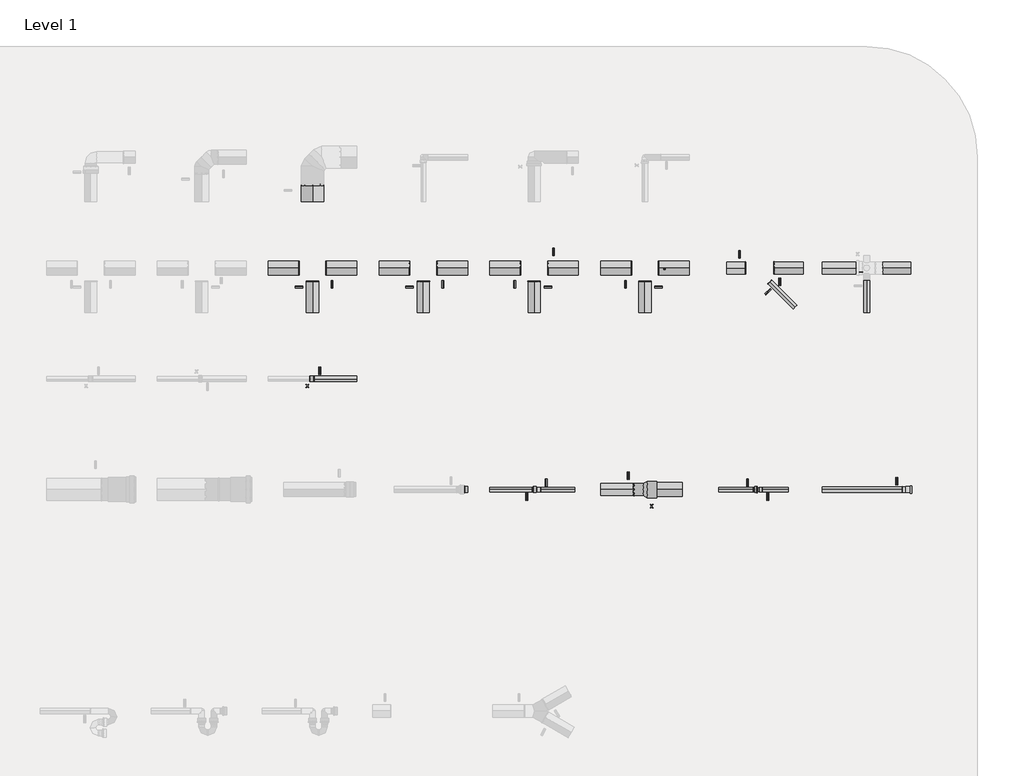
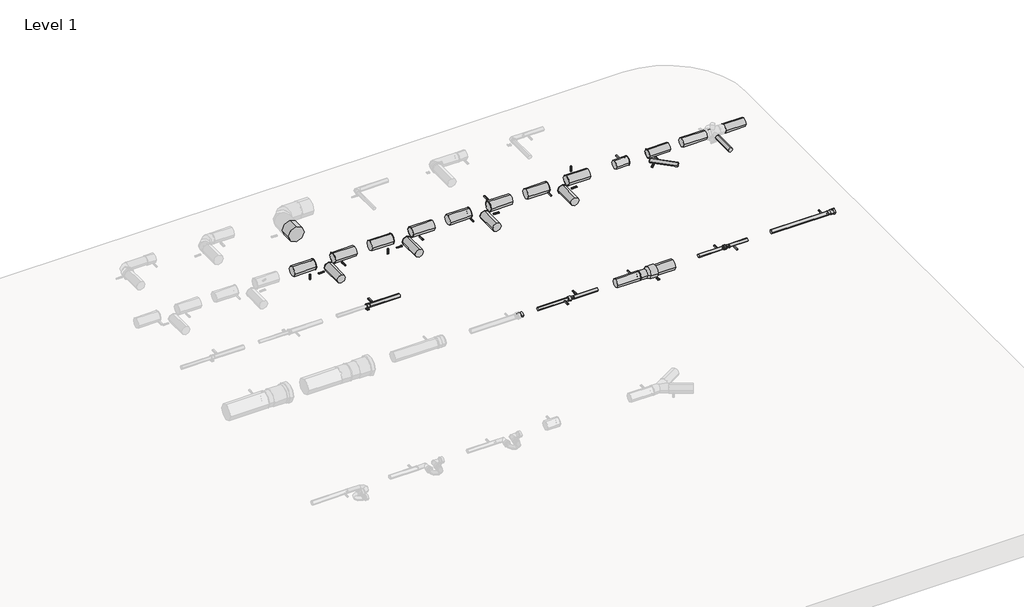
# One storey, part 5 of 6: 33 pipe fittings, 27 pipe segments.
"""IFC4 building model written with IfcOpenShell, lengths in millimetres."""

from ifc_helpers import new_model, si_unit, point, frame, frame_2d, origin, place, context, project, spatial, circle_curve, trimmed, segment, composite_curve, outline, extrude, transform, mapped, element, save
from components import pipe_fitting_c029aed5, pipe_fitting_32baf9d8, var_7bcffa66, var_02c1ed2a, nested_do_not_use_41f74998, nested_do_not_use_80e3b38c, nested_do_not_use_02fd2384, nested_do_not_use_0e8bf35e, nested_do_not_use_4f358614, nested_do_not_use_2b7e7ef3, welded_7e5780db, welded_75b1cb19, welded_63566782, welded_ac007b25

model = new_model("IFC4")

# Units and contexts
model_context = context("Model", 3, world=origin())
ifc_project = project(units=[si_unit("LENGTHUNIT", "METRE", prefix="MILLI")], contexts=[model_context])

# Site, building, storey
site = spatial("IfcSite", under=ifc_project)
building = spatial("IfcBuilding", under=site)
storey = spatial("IfcBuildingStorey", under=building, Name="Level 1", Elevation=0.0)

# Pipe fittings
placement = place(None, origin())
pipe_fitting_shape = pipe_fitting_c029aed5(model_context)
element("IfcPipeFitting", 1, ObjectType="NLRS_52_PIF_UN_HDPE weld_Akatherm : ringseal or non-welded", at=placement, inside=storey, context=model_context, shape_type="MappedRepresentation", body=[
    mapped(pipe_fitting_shape, transform((10658.7281064, 18273.6274824, 200.0), x_axis=(-1.0, 0.0, 0.0), y_axis=(0.0, 1.0, 0.0), z_axis=(0.0, 0.0, -1.0))),
])
pipe_fitting_2_shape = pipe_fitting_32baf9d8(model_context)
element("IfcPipeFitting", 2, ObjectType="NLRS_52_PIF_UN_HDPE weld_Akatherm : ringseal or non-welded", at=placement, inside=storey, context=model_context, shape_type="MappedRepresentation", body=[
    mapped(pipe_fitting_2_shape, transform((13674.9781064, 17273.6274824, 200.0), x_axis=(1.0, 0.0, 0.0), y_axis=(0.0, 1.0, 0.0), z_axis=(0.0, 0.0, 1.0))),
])
var_shape = var_7bcffa66(model_context)
element("IfcPipeFitting", 3, ObjectType="NLRS_52_PIF_UN_HDPE retraction socket_Akatherm : Var.", at=placement, inside=storey, context=model_context, shape_type="MappedRepresentation", body=[
    mapped(var_shape, transform((13659.9781064, 17273.6274824, 200.0), x_axis=(1.0, 0.0, 0.0), y_axis=(0.0, 1.0, 0.0), z_axis=(0.0, 0.0, 1.0))),
])
var_2_shape = var_02c1ed2a(model_context)
element("IfcPipeFitting", 4, ObjectType="NLRS_52_PIF_UN_HDPE plugin socket_Akatherm : Var.", at=placement, inside=storey, context=model_context, shape_type="MappedRepresentation", body=[
    mapped(var_2_shape, transform((15997.9781064, 17273.6274824, 200.0), x_axis=(1.0, 0.0, 0.0), y_axis=(0.0, 1.0, 0.0), z_axis=(0.0, 0.0, 1.0))),
])
nested_do_not_use_shape = nested_do_not_use_41f74998(model_context)
element("IfcPipeFitting", 5, ObjectType="NLRS_52_PIF_UN_HDPE female thread adapter -SH_Akatherm : nested, do not use", at=placement, inside=storey, context=model_context, shape_type="MappedRepresentation", body=[
    mapped(nested_do_not_use_shape, transform((12660.9781064, 17273.6274824, 200.0), x_axis=(1.0, 0.0, 0.0), y_axis=(0.0, 1.0, 0.0), z_axis=(0.0, 0.0, 1.0))),
])
nested_do_not_use_2_shape = nested_do_not_use_80e3b38c(model_context)
element("IfcPipeFitting", 6, ObjectType="NLRS_52_PIF_UN_HDPE flange bushing for screw coupler -SH_Akatherm : nested, do not use", at=placement, inside=storey, context=model_context, shape_type="MappedRepresentation", body=[
    mapped(nested_do_not_use_2_shape, transform((12030.1544434, 17273.6274824, 200.0), x_axis=(1.0, 0.0, 0.0), y_axis=(0.0, 1.0, 0.0), z_axis=(0.0, 0.0, 1.0))),
])
nested_do_not_use_3_shape = nested_do_not_use_02fd2384(model_context)
element("IfcPipeFitting", 7, ObjectType="NLRS_52_PIF_UN_HDPE male thread adapter -SH_Akatherm : nested, do not use", at=placement, inside=storey, context=model_context, shape_type="MappedRepresentation", body=[
    mapped(nested_do_not_use_3_shape, transform((12689.9781064, 17273.6274824, 200.0), x_axis=(-1.0, 0.0, 0.0), y_axis=(0.0, -1.0, 0.0), z_axis=(0.0, 0.0, 1.0))),
])
element("IfcPipeFitting", 8, ObjectType="NLRS_52_PIF_UN_HDPE male thread adapter -SH_Akatherm : nested, do not use", at=placement, inside=storey, context=model_context, shape_type="MappedRepresentation", body=[
    mapped(nested_do_not_use_3_shape, transform((14688.7874716, 17273.6274824, 200.0), x_axis=(-1.0, 0.0, 0.0), y_axis=(0.0, -1.0, 0.0), z_axis=(0.0, 0.0, 1.0))),
])
nested_do_not_use_4_shape = nested_do_not_use_0e8bf35e(model_context)
element("IfcPipeFitting", 9, ObjectType="NLRS_52_PIF_UN_HDPE rubber sleeve -SH_Akatherm : nested, do not use", at=placement, inside=storey, context=model_context, shape_type="MappedRepresentation", body=[
    mapped(nested_do_not_use_4_shape, transform((10646.7281064, 18273.6274824, 200.0), x_axis=(-1.0, 0.0, 0.0), y_axis=(0.0, -1.0, 0.0), z_axis=(0.0, 0.0, 1.0))),
])
nested_do_not_use_5_shape = nested_do_not_use_4f358614(model_context)
element("IfcPipeFitting", 10, ObjectType="NLRS_52_PIF_UN_HDPE screw flange -SH_Akatherm : nested, do not use", at=placement, inside=storey, context=model_context, shape_type="MappedRepresentation", body=[
    mapped(nested_do_not_use_5_shape, transform((14652.7874716, 17273.6274824, 200.0), x_axis=(1.0, 0.0, 0.0), y_axis=(0.0, 1.0, 0.0), z_axis=(0.0, 0.0, 1.0))),
])
nested_do_not_use_6_shape = nested_do_not_use_2b7e7ef3(model_context)
element("IfcPipeFitting", 11, ObjectType="NLRS_52_PIF_UN_HDPE trap connecting socket -SH_Akatherm : nested, do not use", at=placement, inside=storey, context=model_context, shape_type="MappedRepresentation", body=[
    mapped(nested_do_not_use_6_shape, transform((10657.7281064, 18273.6274824, 200.0), x_axis=(1.0, 0.0, 0.0), y_axis=(0.0, 1.0, 0.0), z_axis=(0.0, 0.0, 1.0))),
])
welded_shape = welded_7e5780db(model_context)
element("IfcPipeFitting", 12, ObjectType="NLRS_52_PIF_UN_HDPE weld_Akatherm : welded", at=placement, inside=storey, context=model_context, shape_type="MappedRepresentation", body=[
    mapped(welded_shape, transform((10785.7781064, 19273.6274824, 200.0), x_axis=(1.0, 0.0, 0.0), y_axis=(0.0, 1.0, 0.0), z_axis=(0.0, 0.0, 1.0))),
])
element("IfcPipeFitting", 13, ObjectType="NLRS_52_PIF_UN_HDPE weld_Akatherm : welded", at=placement, inside=storey, context=model_context, shape_type="MappedRepresentation", body=[
    mapped(welded_shape, transform((10534.1781064, 19273.6274824, 200.0), x_axis=(-1.0, 0.0, 0.0), y_axis=(0.0, 0.0, 1.0), z_axis=(0.0, 1.0, 0.0))),
])
element("IfcPipeFitting", 14, ObjectType="NLRS_52_PIF_UN_HDPE weld_Akatherm : welded", at=placement, inside=storey, context=model_context, shape_type="MappedRepresentation", body=[
    mapped(welded_shape, transform((11785.7781064, 19273.6274824, 200.0), x_axis=(1.0, 0.0, 0.0), y_axis=(0.0, 1.0, 0.0), z_axis=(0.0, 0.0, 1.0))),
])
element("IfcPipeFitting", 15, ObjectType="NLRS_52_PIF_UN_HDPE weld_Akatherm : welded", at=placement, inside=storey, context=model_context, shape_type="MappedRepresentation", body=[
    mapped(welded_shape, transform((11534.1781064, 19273.6274824, 200.0), x_axis=(-1.0, 0.0, 0.0), y_axis=(0.0, 0.0, 1.0), z_axis=(0.0, 1.0, 0.0))),
])
element("IfcPipeFitting", 16, ObjectType="NLRS_52_PIF_UN_HDPE weld_Akatherm : welded", at=placement, inside=storey, context=model_context, shape_type="MappedRepresentation", body=[
    mapped(welded_shape, transform((12534.1781064, 19273.6274824, 200.0), x_axis=(-1.0, 0.0, 0.0), y_axis=(0.0, 1.0, 0.0), z_axis=(0.0, 0.0, -1.0))),
])
element("IfcPipeFitting", 17, ObjectType="NLRS_52_PIF_UN_HDPE weld_Akatherm : welded", at=placement, inside=storey, context=model_context, shape_type="MappedRepresentation", body=[
    mapped(welded_shape, transform((12785.7781064, 19273.6274824, 200.0), x_axis=(1.0, 0.0, 0.0), y_axis=(0.0, -1.0, 0.0), z_axis=(0.0, 0.0, -1.0))),
])
element("IfcPipeFitting", 18, ObjectType="NLRS_52_PIF_UN_HDPE weld_Akatherm : welded", at=placement, inside=storey, context=model_context, shape_type="MappedRepresentation", body=[
    mapped(welded_shape, transform((13534.1781064, 19273.6274824, 200.0), x_axis=(-1.0, 0.0, 0.0), y_axis=(0.0, 1.0, 0.0), z_axis=(0.0, 0.0, -1.0))),
])
element("IfcPipeFitting", 19, ObjectType="NLRS_52_PIF_UN_HDPE weld_Akatherm : welded", at=placement, inside=storey, context=model_context, shape_type="MappedRepresentation", body=[
    mapped(welded_shape, transform((13785.7781064, 19273.6274824, 200.0), x_axis=(1.0, 0.0, 0.0), y_axis=(0.0, 0.0, -1.0), z_axis=(0.0, 1.0, 0.0))),
])
welded_2_shape = welded_75b1cb19(model_context)
element("IfcPipeFitting", 20, ObjectType="NLRS_52_PIF_UN_HDPE weld_Akatherm : welded", at=placement, inside=storey, context=model_context, shape_type="MappedRepresentation", body=[
    mapped(welded_2_shape, transform((14786.0552455, 19147.5503433, 200.0), x_axis=(0.7071067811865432, -0.7071067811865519, 0.0), y_axis=(0.7071067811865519, 0.7071067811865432, 0.0), z_axis=(0.0, 0.0, 1.0))),
])
element("IfcPipeFitting", 21, ObjectType="NLRS_52_PIF_UN_HDPE weld_Akatherm : welded", at=placement, inside=storey, context=model_context, shape_type="MappedRepresentation", body=[
    mapped(welded_2_shape, transform((10675.0281064, 18273.6274824, 200.0), x_axis=(1.0, 0.0, 0.0), y_axis=(0.0, -1.0, 0.0), z_axis=(0.0, 0.0, -1.0))),
])
element("IfcPipeFitting", 22, ObjectType="NLRS_52_PIF_UN_HDPE weld_Akatherm : welded", at=placement, inside=storey, context=model_context, shape_type="MappedRepresentation", body=[
    mapped(welded_2_shape, transform((15981.6781064, 17273.6274824, 200.0), x_axis=(-1.0, 0.0, 0.0), y_axis=(0.0, -1.0, 0.0), z_axis=(0.0, 0.0, 1.0))),
])
welded_3_shape = welded_63566782(model_context)
element("IfcPipeFitting", 23, ObjectType="NLRS_52_PIF_UN_HDPE weld_Akatherm : welded", at=placement, inside=storey, context=model_context, shape_type="MappedRepresentation", body=[
    mapped(welded_3_shape, transform((12643.6781064, 17273.6274824, 200.0), x_axis=(-1.0, 0.0, 0.0), y_axis=(0.0, 1.0, 0.0), z_axis=(0.0, 0.0, -1.0))),
])
element("IfcPipeFitting", 24, ObjectType="NLRS_52_PIF_UN_HDPE weld_Akatherm : welded", at=placement, inside=storey, context=model_context, shape_type="MappedRepresentation", body=[
    mapped(welded_3_shape, transform((12718.2781064, 17273.6274824, 200.0), x_axis=(1.0, 0.0, 0.0), y_axis=(0.0, -1.0, 0.0), z_axis=(0.0, 0.0, -1.0))),
])
element("IfcPipeFitting", 25, ObjectType="NLRS_52_PIF_UN_HDPE weld_Akatherm : welded", at=placement, inside=storey, context=model_context, shape_type="MappedRepresentation", body=[
    mapped(welded_3_shape, transform((14636.4874716, 17273.6274824, 200.0), x_axis=(-1.0, 0.0, 0.0), y_axis=(0.0, -1.0, 0.0), z_axis=(0.0, 0.0, 1.0))),
])
element("IfcPipeFitting", 26, ObjectType="NLRS_52_PIF_UN_HDPE weld_Akatherm : welded", at=placement, inside=storey, context=model_context, shape_type="MappedRepresentation", body=[
    mapped(welded_3_shape, transform((14717.0874716, 17273.6274824, 200.0), x_axis=(1.0, 0.0, 0.0), y_axis=(0.0, 1.0, 0.0), z_axis=(0.0, 0.0, 1.0))),
])
welded_4_shape = welded_ac007b25(model_context)
element("IfcPipeFitting", 27, ObjectType="NLRS_52_PIF_UN_HDPE weld_Akatherm : welded", at=placement, inside=storey, context=model_context, shape_type="MappedRepresentation", body=[
    mapped(welded_4_shape, transform((10659.9781064, 19152.3274824, 200.0), x_axis=(0.0, -1.0, 0.0), y_axis=(1.0, 0.0, 0.0), z_axis=(0.0, 0.0, 1.0))),
])
element("IfcPipeFitting", 28, ObjectType="NLRS_52_PIF_UN_HDPE weld_Akatherm : welded", at=placement, inside=storey, context=model_context, shape_type="MappedRepresentation", body=[
    mapped(welded_4_shape, transform((11659.9781064, 19152.3274824, 200.0), x_axis=(0.0, -1.0, 0.0), y_axis=(1.0, 0.0, 0.0), z_axis=(0.0, 0.0, 1.0))),
])
element("IfcPipeFitting", 29, ObjectType="NLRS_52_PIF_UN_HDPE weld_Akatherm : welded", at=placement, inside=storey, context=model_context, shape_type="MappedRepresentation", body=[
    mapped(welded_4_shape, transform((12659.9781064, 19152.3274824, 200.0), x_axis=(0.0, -1.0, 0.0), y_axis=(-1.0, 0.0, 0.0), z_axis=(0.0, 0.0, -1.0))),
])
element("IfcPipeFitting", 30, ObjectType="NLRS_52_PIF_UN_HDPE weld_Akatherm : welded", at=placement, inside=storey, context=model_context, shape_type="MappedRepresentation", body=[
    mapped(welded_4_shape, transform((13659.9781064, 19152.3274824, 200.0), x_axis=(0.0, -1.0, 0.0), y_axis=(-1.0, 0.0, 0.0), z_axis=(0.0, 0.0, -1.0))),
])
element("IfcPipeFitting", 31, ObjectType="NLRS_52_PIF_UN_HDPE weld_Akatherm : welded", at=placement, inside=storey, context=model_context, shape_type="MappedRepresentation", body=[
    mapped(welded_4_shape, transform((14563.6781064, 19273.6274824, 200.0), x_axis=(-1.0, 0.0, 0.0), y_axis=(0.0, -1.0, 0.0), z_axis=(0.0, 0.0, 1.0))),
])
element("IfcPipeFitting", 32, ObjectType="NLRS_52_PIF_UN_HDPE weld_Akatherm : welded", at=placement, inside=storey, context=model_context, shape_type="MappedRepresentation", body=[
    mapped(welded_4_shape, transform((14826.2781064, 19273.6274824, 200.0), x_axis=(1.0, 0.0, 0.0), y_axis=(0.0, 1.0, 0.0), z_axis=(0.0, 0.0, 1.0))),
])
element("IfcPipeFitting", 33, ObjectType="NLRS_52_PIF_UN_HDPE weld_Akatherm : welded", at=placement, inside=storey, context=model_context, shape_type="MappedRepresentation", body=[
    mapped(welded_4_shape, transform((13558.6781064, 17273.6274824, 200.0), x_axis=(-1.0, 0.0, 0.0), y_axis=(0.0, -1.0, 0.0), z_axis=(0.0, 0.0, 1.0))),
])

# Pipe segments
element("IfcPipeSegment", 34, ObjectType="NLRS_52_PI_HDPE buis (DN)_Akatherm", at=placement, inside=storey, context=model_context, shape_type="SweptSolid", body=[
    extrude(outline(composite_curve([segment(trimmed(circle_curve(frame_2d((200.0, 10659.9781064)), 55.0), [point((200.0, 10604.9781064))], [point((145.0, 10659.9781064))], False, "CARTESIAN"), True, "CONTINUOUS"), segment(trimmed(circle_curve(frame_2d((200.0, 10659.9781064)), 55.0), [point((145.0, 10659.9781064))], [point((200.0, 10714.9781064))], False, "CARTESIAN"), True, "CONTINUOUS"), segment(trimmed(circle_curve(frame_2d((200.0, 10659.9781064)), 55.0), [point((200.0, 10714.9781064))], [point((255.0, 10659.9781064))], False, "CARTESIAN"), True, "CONTINUOUS"), segment(trimmed(circle_curve(frame_2d((200.0, 10659.9781064)), 55.0), [point((255.0, 10659.9781064))], [point((200.0, 10604.9781064))], False, "CARTESIAN"), True, "CONTINUOUS")], self_intersect=False)), frame((0.0, 18873.6274824, 0.0), z_axis=(0.0, 1.0, 0.0), x_axis=(0.0, 0.0, 1.0)), (0.0, 0.0, 1.0), 282.4),
])
element("IfcPipeSegment", 35, ObjectType="NLRS_52_PI_HDPE buis (DN)_Akatherm", at=placement, inside=storey, context=model_context, shape_type="SweptSolid", body=[
    extrude(outline(composite_curve([segment(trimmed(circle_curve(frame_2d((19273.6274824, 200.0)), 62.5), [point((19211.1274824, 200.0))], [point((19273.6274824, 262.5))], False, "CARTESIAN"), True, "CONTINUOUS"), segment(trimmed(circle_curve(frame_2d((19273.6274824, 200.0)), 62.5), [point((19273.6274824, 262.5))], [point((19336.1274824, 200.0))], False, "CARTESIAN"), True, "CONTINUOUS"), segment(trimmed(circle_curve(frame_2d((19273.6274824, 200.0)), 62.5), [point((19336.1274824, 200.0))], [point((19273.6274824, 137.5))], False, "CARTESIAN"), True, "CONTINUOUS"), segment(trimmed(circle_curve(frame_2d((19273.6274824, 200.0)), 62.5), [point((19273.6274824, 137.5))], [point((19211.1274824, 200.0))], False, "CARTESIAN"), True, "CONTINUOUS")], self_intersect=False)), frame((10781.5781064, 0.0, 0.0), z_axis=(1.0, 0.0, 0.0), x_axis=(0.0, 1.0, 0.0)), (0.0, 0.0, 1.0), 278.4),
])
element("IfcPipeSegment", 36, ObjectType="NLRS_52_PI_HDPE buis (DN)_Akatherm", at=placement, inside=storey, context=model_context, shape_type="SweptSolid", body=[
    extrude(outline(composite_curve([segment(trimmed(circle_curve(frame_2d((19273.6274824, 200.0)), 62.5), [point((19211.1274824, 200.0))], [point((19273.6274824, 262.5))], False, "CARTESIAN"), True, "CONTINUOUS"), segment(trimmed(circle_curve(frame_2d((19273.6274824, 200.0)), 62.5), [point((19273.6274824, 262.5))], [point((19336.1274824, 200.0))], False, "CARTESIAN"), True, "CONTINUOUS"), segment(trimmed(circle_curve(frame_2d((19273.6274824, 200.0)), 62.5), [point((19336.1274824, 200.0))], [point((19273.6274824, 137.5))], False, "CARTESIAN"), True, "CONTINUOUS"), segment(trimmed(circle_curve(frame_2d((19273.6274824, 200.0)), 62.5), [point((19273.6274824, 137.5))], [point((19211.1274824, 200.0))], False, "CARTESIAN"), True, "CONTINUOUS")], self_intersect=False)), frame((10259.9781064, 0.0, 0.0), z_axis=(1.0, 0.0, 0.0), x_axis=(0.0, 1.0, 0.0)), (0.0, 0.0, 1.0), 278.4),
])
element("IfcPipeSegment", 37, ObjectType="NLRS_52_PI_HDPE buis (DN)_Akatherm", at=placement, inside=storey, context=model_context, shape_type="SweptSolid", body=[
    extrude(outline(composite_curve([segment(trimmed(circle_curve(frame_2d((200.0, 11659.9781064)), 55.0), [point((200.0, 11604.9781064))], [point((145.0, 11659.9781064))], False, "CARTESIAN"), True, "CONTINUOUS"), segment(trimmed(circle_curve(frame_2d((200.0, 11659.9781064)), 55.0), [point((145.0, 11659.9781064))], [point((200.0, 11714.9781064))], False, "CARTESIAN"), True, "CONTINUOUS"), segment(trimmed(circle_curve(frame_2d((200.0, 11659.9781064)), 55.0), [point((200.0, 11714.9781064))], [point((255.0, 11659.9781064))], False, "CARTESIAN"), True, "CONTINUOUS"), segment(trimmed(circle_curve(frame_2d((200.0, 11659.9781064)), 55.0), [point((255.0, 11659.9781064))], [point((200.0, 11604.9781064))], False, "CARTESIAN"), True, "CONTINUOUS")], self_intersect=False)), frame((0.0, 18873.6274824, 0.0), z_axis=(0.0, 1.0, 0.0), x_axis=(0.0, 0.0, 1.0)), (0.0, 0.0, 1.0), 282.4),
])
element("IfcPipeSegment", 38, ObjectType="NLRS_52_PI_HDPE buis (DN)_Akatherm", at=placement, inside=storey, context=model_context, shape_type="SweptSolid", body=[
    extrude(outline(composite_curve([segment(trimmed(circle_curve(frame_2d((19273.6274824, 200.0)), 62.5), [point((19211.1274824, 200.0))], [point((19273.6274824, 262.5))], False, "CARTESIAN"), True, "CONTINUOUS"), segment(trimmed(circle_curve(frame_2d((19273.6274824, 200.0)), 62.5), [point((19273.6274824, 262.5))], [point((19336.1274824, 200.0))], False, "CARTESIAN"), True, "CONTINUOUS"), segment(trimmed(circle_curve(frame_2d((19273.6274824, 200.0)), 62.5), [point((19336.1274824, 200.0))], [point((19273.6274824, 137.5))], False, "CARTESIAN"), True, "CONTINUOUS"), segment(trimmed(circle_curve(frame_2d((19273.6274824, 200.0)), 62.5), [point((19273.6274824, 137.5))], [point((19211.1274824, 200.0))], False, "CARTESIAN"), True, "CONTINUOUS")], self_intersect=False)), frame((11781.5781064, 0.0, 0.0), z_axis=(1.0, 0.0, 0.0), x_axis=(0.0, 1.0, 0.0)), (0.0, 0.0, 1.0), 278.4),
])
element("IfcPipeSegment", 39, ObjectType="NLRS_52_PI_HDPE buis (DN)_Akatherm", at=placement, inside=storey, context=model_context, shape_type="SweptSolid", body=[
    extrude(outline(composite_curve([segment(trimmed(circle_curve(frame_2d((19273.6274824, 200.0)), 62.5), [point((19211.1274824, 200.0))], [point((19273.6274824, 262.5))], False, "CARTESIAN"), True, "CONTINUOUS"), segment(trimmed(circle_curve(frame_2d((19273.6274824, 200.0)), 62.5), [point((19273.6274824, 262.5))], [point((19336.1274824, 200.0))], False, "CARTESIAN"), True, "CONTINUOUS"), segment(trimmed(circle_curve(frame_2d((19273.6274824, 200.0)), 62.5), [point((19336.1274824, 200.0))], [point((19273.6274824, 137.5))], False, "CARTESIAN"), True, "CONTINUOUS"), segment(trimmed(circle_curve(frame_2d((19273.6274824, 200.0)), 62.5), [point((19273.6274824, 137.5))], [point((19211.1274824, 200.0))], False, "CARTESIAN"), True, "CONTINUOUS")], self_intersect=False)), frame((11259.9781064, 0.0, 0.0), z_axis=(1.0, 0.0, 0.0), x_axis=(0.0, 1.0, 0.0)), (0.0, 0.0, 1.0), 278.4),
])
element("IfcPipeSegment", 40, ObjectType="NLRS_52_PI_HDPE buis (DN)_Akatherm", at=placement, inside=storey, context=model_context, shape_type="SweptSolid", body=[
    extrude(outline(composite_curve([segment(trimmed(circle_curve(frame_2d((200.0, 12659.9781064)), 55.0), [point((200.0, 12604.9781064))], [point((145.0, 12659.9781064))], False, "CARTESIAN"), True, "CONTINUOUS"), segment(trimmed(circle_curve(frame_2d((200.0, 12659.9781064)), 55.0), [point((145.0, 12659.9781064))], [point((200.0, 12714.9781064))], False, "CARTESIAN"), True, "CONTINUOUS"), segment(trimmed(circle_curve(frame_2d((200.0, 12659.9781064)), 55.0), [point((200.0, 12714.9781064))], [point((255.0, 12659.9781064))], False, "CARTESIAN"), True, "CONTINUOUS"), segment(trimmed(circle_curve(frame_2d((200.0, 12659.9781064)), 55.0), [point((255.0, 12659.9781064))], [point((200.0, 12604.9781064))], False, "CARTESIAN"), True, "CONTINUOUS")], self_intersect=False)), frame((0.0, 18873.6274824, 0.0), z_axis=(0.0, 1.0, 0.0), x_axis=(0.0, 0.0, 1.0)), (0.0, 0.0, 1.0), 282.4),
])
element("IfcPipeSegment", 41, ObjectType="NLRS_52_PI_HDPE buis (DN)_Akatherm", at=placement, inside=storey, context=model_context, shape_type="SweptSolid", body=[
    extrude(outline(composite_curve([segment(trimmed(circle_curve(frame_2d((19273.6274824, 200.0)), 62.5), [point((19211.1274824, 200.0))], [point((19273.6274824, 262.5))], False, "CARTESIAN"), True, "CONTINUOUS"), segment(trimmed(circle_curve(frame_2d((19273.6274824, 200.0)), 62.5), [point((19273.6274824, 262.5))], [point((19336.1274824, 200.0))], False, "CARTESIAN"), True, "CONTINUOUS"), segment(trimmed(circle_curve(frame_2d((19273.6274824, 200.0)), 62.5), [point((19336.1274824, 200.0))], [point((19273.6274824, 137.5))], False, "CARTESIAN"), True, "CONTINUOUS"), segment(trimmed(circle_curve(frame_2d((19273.6274824, 200.0)), 62.5), [point((19273.6274824, 137.5))], [point((19211.1274824, 200.0))], False, "CARTESIAN"), True, "CONTINUOUS")], self_intersect=False)), frame((12781.5781064, 0.0, 0.0), z_axis=(1.0, 0.0, 0.0), x_axis=(0.0, 1.0, 0.0)), (0.0, 0.0, 1.0), 278.4),
])
element("IfcPipeSegment", 42, ObjectType="NLRS_52_PI_HDPE buis (DN)_Akatherm", at=placement, inside=storey, context=model_context, shape_type="SweptSolid", body=[
    extrude(outline(composite_curve([segment(trimmed(circle_curve(frame_2d((19273.6274824, 200.0)), 62.5), [point((19211.1274824, 200.0))], [point((19273.6274824, 262.5))], False, "CARTESIAN"), True, "CONTINUOUS"), segment(trimmed(circle_curve(frame_2d((19273.6274824, 200.0)), 62.5), [point((19273.6274824, 262.5))], [point((19336.1274824, 200.0))], False, "CARTESIAN"), True, "CONTINUOUS"), segment(trimmed(circle_curve(frame_2d((19273.6274824, 200.0)), 62.5), [point((19336.1274824, 200.0))], [point((19273.6274824, 137.5))], False, "CARTESIAN"), True, "CONTINUOUS"), segment(trimmed(circle_curve(frame_2d((19273.6274824, 200.0)), 62.5), [point((19273.6274824, 137.5))], [point((19211.1274824, 200.0))], False, "CARTESIAN"), True, "CONTINUOUS")], self_intersect=False)), frame((12259.9781064, 0.0, 0.0), z_axis=(1.0, 0.0, 0.0), x_axis=(0.0, 1.0, 0.0)), (0.0, 0.0, 1.0), 278.4),
])
element("IfcPipeSegment", 43, ObjectType="NLRS_52_PI_HDPE buis (DN)_Akatherm", at=placement, inside=storey, context=model_context, shape_type="SweptSolid", body=[
    extrude(outline(composite_curve([segment(trimmed(circle_curve(frame_2d((200.0, 13659.9781064)), 55.0), [point((200.0, 13604.9781064))], [point((145.0, 13659.9781064))], False, "CARTESIAN"), True, "CONTINUOUS"), segment(trimmed(circle_curve(frame_2d((200.0, 13659.9781064)), 55.0), [point((145.0, 13659.9781064))], [point((200.0, 13714.9781064))], False, "CARTESIAN"), True, "CONTINUOUS"), segment(trimmed(circle_curve(frame_2d((200.0, 13659.9781064)), 55.0), [point((200.0, 13714.9781064))], [point((255.0, 13659.9781064))], False, "CARTESIAN"), True, "CONTINUOUS"), segment(trimmed(circle_curve(frame_2d((200.0, 13659.9781064)), 55.0), [point((255.0, 13659.9781064))], [point((200.0, 13604.9781064))], False, "CARTESIAN"), True, "CONTINUOUS")], self_intersect=False)), frame((0.0, 18873.6274824, 0.0), z_axis=(0.0, 1.0, 0.0), x_axis=(0.0, 0.0, 1.0)), (0.0, 0.0, 1.0), 282.4),
])
element("IfcPipeSegment", 44, ObjectType="NLRS_52_PI_HDPE buis (DN)_Akatherm", at=placement, inside=storey, context=model_context, shape_type="SweptSolid", body=[
    extrude(outline(composite_curve([segment(trimmed(circle_curve(frame_2d((19273.6274824, 200.0)), 62.5), [point((19211.1274824, 200.0))], [point((19273.6274824, 262.5))], False, "CARTESIAN"), True, "CONTINUOUS"), segment(trimmed(circle_curve(frame_2d((19273.6274824, 200.0)), 62.5), [point((19273.6274824, 262.5))], [point((19336.1274824, 200.0))], False, "CARTESIAN"), True, "CONTINUOUS"), segment(trimmed(circle_curve(frame_2d((19273.6274824, 200.0)), 62.5), [point((19336.1274824, 200.0))], [point((19273.6274824, 137.5))], False, "CARTESIAN"), True, "CONTINUOUS"), segment(trimmed(circle_curve(frame_2d((19273.6274824, 200.0)), 62.5), [point((19273.6274824, 137.5))], [point((19211.1274824, 200.0))], False, "CARTESIAN"), True, "CONTINUOUS")], self_intersect=False)), frame((13781.5781064, 0.0, 0.0), z_axis=(1.0, 0.0, 0.0), x_axis=(0.0, 1.0, 0.0)), (0.0, 0.0, 1.0), 278.4),
])
element("IfcPipeSegment", 45, ObjectType="NLRS_52_PI_HDPE buis (DN)_Akatherm", at=placement, inside=storey, context=model_context, shape_type="SweptSolid", body=[
    extrude(outline(composite_curve([segment(trimmed(circle_curve(frame_2d((19273.6274824, 200.0)), 62.5), [point((19211.1274824, 200.0))], [point((19273.6274824, 262.5))], False, "CARTESIAN"), True, "CONTINUOUS"), segment(trimmed(circle_curve(frame_2d((19273.6274824, 200.0)), 62.5), [point((19273.6274824, 262.5))], [point((19336.1274824, 200.0))], False, "CARTESIAN"), True, "CONTINUOUS"), segment(trimmed(circle_curve(frame_2d((19273.6274824, 200.0)), 62.5), [point((19336.1274824, 200.0))], [point((19273.6274824, 137.5))], False, "CARTESIAN"), True, "CONTINUOUS"), segment(trimmed(circle_curve(frame_2d((19273.6274824, 200.0)), 62.5), [point((19273.6274824, 137.5))], [point((19211.1274824, 200.0))], False, "CARTESIAN"), True, "CONTINUOUS")], self_intersect=False)), frame((13259.9781064, 0.0, 0.0), z_axis=(1.0, 0.0, 0.0), x_axis=(0.0, 1.0, 0.0)), (0.0, 0.0, 1.0), 278.4),
])
element("IfcPipeSegment", 46, ObjectType="NLRS_52_PI_HDPE buis (DN)_Akatherm", at=placement, inside=storey, context=model_context, shape_type="SweptSolid", body=[
    extrude(outline(composite_curve([segment(trimmed(circle_curve(frame_2d((19273.6274824, 200.0)), 55.0), [point((19218.6274824, 200.0))], [point((19273.6274824, 255.0))], False, "CARTESIAN"), True, "CONTINUOUS"), segment(trimmed(circle_curve(frame_2d((19273.6274824, 200.0)), 55.0), [point((19273.6274824, 255.0))], [point((19328.6274824, 200.0))], False, "CARTESIAN"), True, "CONTINUOUS"), segment(trimmed(circle_curve(frame_2d((19273.6274824, 200.0)), 55.0), [point((19328.6274824, 200.0))], [point((19273.6274824, 145.0))], False, "CARTESIAN"), True, "CONTINUOUS"), segment(trimmed(circle_curve(frame_2d((19273.6274824, 200.0)), 55.0), [point((19273.6274824, 145.0))], [point((19218.6274824, 200.0))], False, "CARTESIAN"), True, "CONTINUOUS")], self_intersect=False)), frame((14822.5781064, 0.0, 0.0), z_axis=(1.0, 0.0, 0.0), x_axis=(0.0, 1.0, 0.0)), (0.0, 0.0, 1.0), 267.4),
])
element("IfcPipeSegment", 47, ObjectType="NLRS_52_PI_HDPE buis (DN)_Akatherm", at=placement, inside=storey, context=model_context, shape_type="SweptSolid", body=[
    extrude(outline(composite_curve([segment(trimmed(circle_curve(frame_2d((19273.6274824, 200.0)), 55.0), [point((19328.6274824, 200.0))], [point((19273.6274824, 145.0))], False, "CARTESIAN"), True, "CONTINUOUS"), segment(trimmed(circle_curve(frame_2d((19273.6274824, 200.0)), 55.0), [point((19273.6274824, 145.0))], [point((19218.6274824, 200.0))], False, "CARTESIAN"), True, "CONTINUOUS"), segment(trimmed(circle_curve(frame_2d((19273.6274824, 200.0)), 55.0), [point((19218.6274824, 200.0))], [point((19273.6274824, 255.0))], False, "CARTESIAN"), True, "CONTINUOUS"), segment(trimmed(circle_curve(frame_2d((19273.6274824, 200.0)), 55.0), [point((19273.6274824, 255.0))], [point((19328.6274824, 200.0))], False, "CARTESIAN"), True, "CONTINUOUS")], self_intersect=False)), frame((14399.9781064, 0.0, 0.0), z_axis=(1.0, 0.0, 0.0), x_axis=(0.0, 1.0, 0.0)), (0.0, 0.0, 1.0), 167.4),
])
element("IfcPipeSegment", 48, ObjectType="NLRS_52_PI_HDPE buis (DN)_Akatherm", at=placement, inside=storey, context=model_context, shape_type="SweptSolid", body=[
    extrude(outline(composite_curve([segment(trimmed(circle_curve(frame_2d((0.0, -25.0)), 25.0), [point((-25.0, -25.0))], [point((0.0, 0.0))], False, "CARTESIAN"), True, "CONTINUOUS"), segment(trimmed(circle_curve(frame_2d((0.0, -25.0)), 25.0), [point((0.0, 0.0))], [point((25.0, -25.0))], False, "CARTESIAN"), True, "CONTINUOUS"), segment(trimmed(circle_curve(frame_2d((0.0, -25.0)), 25.0), [point((25.0, -25.0))], [point((0.0, -50.0))], False, "CARTESIAN"), True, "CONTINUOUS"), segment(trimmed(circle_curve(frame_2d((0.0, -25.0)), 25.0), [point((0.0, -50.0))], [point((-25.0, -25.0))], False, "CARTESIAN"), True, "CONTINUOUS")], self_intersect=False)), frame((15013.531497, 18920.0740918, 175.0), z_axis=(-0.707106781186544, 0.7071067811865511, 0.0), x_axis=(0.7071067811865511, 0.707106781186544, 0.0)), (0.0, 0.0, 1.0), 323.4),
])
element("IfcPipeSegment", 49, ObjectType="NLRS_52_PI_HDPE buis (DN)_Akatherm", at=placement, inside=storey, context=model_context, shape_type="SweptSolid", body=[
    extrude(outline(composite_curve([segment(trimmed(circle_curve(frame_2d((200.0, 10659.9781064)), 100.0), [point((200.0, 10559.9781064))], [point((100.0, 10659.9781064))], False, "CARTESIAN"), True, "CONTINUOUS"), segment(trimmed(circle_curve(frame_2d((200.0, 10659.9781064)), 100.0), [point((100.0, 10659.9781064))], [point((200.0, 10759.9781064))], False, "CARTESIAN"), True, "CONTINUOUS"), segment(trimmed(circle_curve(frame_2d((200.0, 10659.9781064)), 100.0), [point((200.0, 10759.9781064))], [point((300.0, 10659.9781064))], False, "CARTESIAN"), True, "CONTINUOUS"), segment(trimmed(circle_curve(frame_2d((200.0, 10659.9781064)), 100.0), [point((300.0, 10659.9781064))], [point((200.0, 10559.9781064))], False, "CARTESIAN"), True, "CONTINUOUS")], self_intersect=False)), frame((0.0, 19873.6274824, 0.0), z_axis=(0.0, 1.0, 0.0), x_axis=(0.0, 0.0, 1.0)), (0.0, 0.0, 1.0), 156.4),
])
element("IfcPipeSegment", 50, ObjectType="NLRS_52_PI_HDPE buis (DN)_Akatherm", at=placement, inside=storey, context=model_context, shape_type="SweptSolid", body=[
    extrude(outline(composite_curve([segment(trimmed(circle_curve(frame_2d((200.0, 15659.9781064)), 28.0), [point((200.0, 15631.9781064))], [point((172.0, 15659.9781064))], False, "CARTESIAN"), True, "CONTINUOUS"), segment(trimmed(circle_curve(frame_2d((200.0, 15659.9781064)), 28.0), [point((172.0, 15659.9781064))], [point((200.0, 15687.9781064))], False, "CARTESIAN"), True, "CONTINUOUS"), segment(trimmed(circle_curve(frame_2d((200.0, 15659.9781064)), 28.0), [point((200.0, 15687.9781064))], [point((228.0, 15659.9781064))], False, "CARTESIAN"), True, "CONTINUOUS"), segment(trimmed(circle_curve(frame_2d((200.0, 15659.9781064)), 28.0), [point((228.0, 15659.9781064))], [point((200.0, 15631.9781064))], False, "CARTESIAN"), True, "CONTINUOUS")], self_intersect=False)), frame((0.0, 18873.6274824, 0.0), z_axis=(0.0, 1.0, 0.0), x_axis=(0.0, 0.0, 1.0)), (0.0, 0.0, 1.0), 291.6),
])
element("IfcPipeSegment", 51, ObjectType="NLRS_52_PI_HDPE buis (DN)_Akatherm", at=placement, inside=storey, context=model_context, shape_type="SweptSolid", body=[
    extrude(outline(composite_curve([segment(trimmed(circle_curve(frame_2d((19273.6274824, 200.0)), 55.0), [point((19218.6274824, 200.0))], [point((19273.6274824, 255.0))], False, "CARTESIAN"), True, "CONTINUOUS"), segment(trimmed(circle_curve(frame_2d((19273.6274824, 200.0)), 55.0), [point((19273.6274824, 255.0))], [point((19328.6274824, 200.0))], False, "CARTESIAN"), True, "CONTINUOUS"), segment(trimmed(circle_curve(frame_2d((19273.6274824, 200.0)), 55.0), [point((19328.6274824, 200.0))], [point((19273.6274824, 145.0))], False, "CARTESIAN"), True, "CONTINUOUS"), segment(trimmed(circle_curve(frame_2d((19273.6274824, 200.0)), 55.0), [point((19273.6274824, 145.0))], [point((19218.6274824, 200.0))], False, "CARTESIAN"), True, "CONTINUOUS")], self_intersect=False)), frame((15803.7781064, 0.0, 0.0), z_axis=(1.0, 0.0, 0.0), x_axis=(0.0, 1.0, 0.0)), (0.0, 0.0, 1.0), 256.2),
])
element("IfcPipeSegment", 52, ObjectType="NLRS_52_PI_HDPE buis (DN)_Akatherm", at=placement, inside=storey, context=model_context, shape_type="SweptSolid", body=[
    extrude(outline(composite_curve([segment(trimmed(circle_curve(frame_2d((19273.6274824, 200.0)), 55.0), [point((19328.6274824, 200.0))], [point((19273.6274824, 145.0))], False, "CARTESIAN"), True, "CONTINUOUS"), segment(trimmed(circle_curve(frame_2d((19273.6274824, 200.0)), 55.0), [point((19273.6274824, 145.0))], [point((19218.6274824, 200.0))], False, "CARTESIAN"), True, "CONTINUOUS"), segment(trimmed(circle_curve(frame_2d((19273.6274824, 200.0)), 55.0), [point((19218.6274824, 200.0))], [point((19273.6274824, 255.0))], False, "CARTESIAN"), True, "CONTINUOUS"), segment(trimmed(circle_curve(frame_2d((19273.6274824, 200.0)), 55.0), [point((19273.6274824, 255.0))], [point((19328.6274824, 200.0))], False, "CARTESIAN"), True, "CONTINUOUS")], self_intersect=False)), frame((15259.9781064, 0.0, 0.0), z_axis=(1.0, 0.0, 0.0), x_axis=(0.0, 1.0, 0.0)), (0.0, 0.0, 1.0), 363.1),
])
element("IfcPipeSegment", 53, ObjectType="NLRS_52_PI_HDPE buis (DN)_Akatherm", at=placement, inside=storey, context=model_context, shape_type="SweptSolid", body=[
    extrude(outline(composite_curve([segment(trimmed(circle_curve(frame_2d((17273.6274824, 200.0)), 20.0), [point((17293.6274824, 200.0))], [point((17273.6274824, 180.0))], False, "CARTESIAN"), True, "CONTINUOUS"), segment(trimmed(circle_curve(frame_2d((17273.6274824, 200.0)), 20.0), [point((17273.6274824, 180.0))], [point((17253.6274824, 200.0))], False, "CARTESIAN"), True, "CONTINUOUS"), segment(trimmed(circle_curve(frame_2d((17273.6274824, 200.0)), 20.0), [point((17253.6274824, 200.0))], [point((17273.6274824, 220.0))], False, "CARTESIAN"), True, "CONTINUOUS"), segment(trimmed(circle_curve(frame_2d((17273.6274824, 200.0)), 20.0), [point((17273.6274824, 220.0))], [point((17293.6274824, 200.0))], False, "CARTESIAN"), True, "CONTINUOUS")], self_intersect=False)), frame((12259.9781064, 0.0, 0.0), z_axis=(1.0, 0.0, 0.0), x_axis=(0.0, 1.0, 0.0)), (0.0, 0.0, 1.0), 385.4),
])
element("IfcPipeSegment", 54, ObjectType="NLRS_52_PI_HDPE buis (DN)_Akatherm", at=placement, inside=storey, context=model_context, shape_type="SweptSolid", body=[
    extrude(outline(composite_curve([segment(trimmed(circle_curve(frame_2d((17273.6274824, 200.0)), 20.0), [point((17253.6274824, 200.0))], [point((17273.6274824, 220.0))], False, "CARTESIAN"), True, "CONTINUOUS"), segment(trimmed(circle_curve(frame_2d((17273.6274824, 200.0)), 20.0), [point((17273.6274824, 220.0))], [point((17293.6274824, 200.0))], False, "CARTESIAN"), True, "CONTINUOUS"), segment(trimmed(circle_curve(frame_2d((17273.6274824, 200.0)), 20.0), [point((17293.6274824, 200.0))], [point((17273.6274824, 180.0))], False, "CARTESIAN"), True, "CONTINUOUS"), segment(trimmed(circle_curve(frame_2d((17273.6274824, 200.0)), 20.0), [point((17273.6274824, 180.0))], [point((17253.6274824, 200.0))], False, "CARTESIAN"), True, "CONTINUOUS")], self_intersect=False)), frame((12716.5781064, 0.0, 0.0), z_axis=(1.0, 0.0, 0.0), x_axis=(0.0, 1.0, 0.0)), (0.0, 0.0, 1.0), 308.4),
])
element("IfcPipeSegment", 55, ObjectType="NLRS_52_PI_HDPE buis (DN)_Akatherm", at=placement, inside=storey, context=model_context, shape_type="SweptSolid", body=[
    extrude(outline(composite_curve([segment(trimmed(circle_curve(frame_2d((17273.6274824, 200.0)), 55.0), [point((17328.6274824, 200.0))], [point((17273.6274824, 145.0))], False, "CARTESIAN"), True, "CONTINUOUS"), segment(trimmed(circle_curve(frame_2d((17273.6274824, 200.0)), 55.0), [point((17273.6274824, 145.0))], [point((17218.6274824, 200.0))], False, "CARTESIAN"), True, "CONTINUOUS"), segment(trimmed(circle_curve(frame_2d((17273.6274824, 200.0)), 55.0), [point((17218.6274824, 200.0))], [point((17273.6274824, 255.0))], False, "CARTESIAN"), True, "CONTINUOUS"), segment(trimmed(circle_curve(frame_2d((17273.6274824, 200.0)), 55.0), [point((17273.6274824, 255.0))], [point((17328.6274824, 200.0))], False, "CARTESIAN"), True, "CONTINUOUS")], self_intersect=False)), frame((13259.9781064, 0.0, 0.0), z_axis=(1.0, 0.0, 0.0), x_axis=(0.0, 1.0, 0.0)), (0.0, 0.0, 1.0), 302.4),
])
element("IfcPipeSegment", 56, ObjectType="NLRS_52_PI_HDPE buis (DN)_Akatherm", at=placement, inside=storey, context=model_context, shape_type="SweptSolid", body=[
    extrude(outline(composite_curve([segment(trimmed(circle_curve(frame_2d((17273.6274824, 200.0)), 62.5), [point((17211.1274824, 200.0))], [point((17273.6274824, 262.5))], False, "CARTESIAN"), True, "CONTINUOUS"), segment(trimmed(circle_curve(frame_2d((17273.6274824, 200.0)), 62.5), [point((17273.6274824, 262.5))], [point((17336.1274824, 200.0))], False, "CARTESIAN"), True, "CONTINUOUS"), segment(trimmed(circle_curve(frame_2d((17273.6274824, 200.0)), 62.5), [point((17336.1274824, 200.0))], [point((17273.6274824, 137.5))], False, "CARTESIAN"), True, "CONTINUOUS"), segment(trimmed(circle_curve(frame_2d((17273.6274824, 200.0)), 62.5), [point((17273.6274824, 137.5))], [point((17211.1274824, 200.0))], False, "CARTESIAN"), True, "CONTINUOUS")], self_intersect=False)), frame((13674.9781064, 0.0, 0.0), z_axis=(1.0, 0.0, 0.0), x_axis=(0.0, 1.0, 0.0)), (0.0, 0.0, 1.0), 320.0),
])
element("IfcPipeSegment", 57, ObjectType="NLRS_52_PI_HDPE buis (DN)_Akatherm", at=placement, inside=storey, context=model_context, shape_type="SweptSolid", body=[
    extrude(outline(composite_curve([segment(trimmed(circle_curve(frame_2d((17273.6274824, 200.0)), 20.0), [point((17293.6274824, 200.0))], [point((17273.6274824, 180.0))], False, "CARTESIAN"), True, "CONTINUOUS"), segment(trimmed(circle_curve(frame_2d((17273.6274824, 200.0)), 20.0), [point((17273.6274824, 180.0))], [point((17253.6274824, 200.0))], False, "CARTESIAN"), True, "CONTINUOUS"), segment(trimmed(circle_curve(frame_2d((17273.6274824, 200.0)), 20.0), [point((17253.6274824, 200.0))], [point((17273.6274824, 220.0))], False, "CARTESIAN"), True, "CONTINUOUS"), segment(trimmed(circle_curve(frame_2d((17273.6274824, 200.0)), 20.0), [point((17273.6274824, 220.0))], [point((17293.6274824, 200.0))], False, "CARTESIAN"), True, "CONTINUOUS")], self_intersect=False)), frame((14324.7874716, 0.0, 0.0), z_axis=(1.0, 0.0, 0.0), x_axis=(0.0, 1.0, 0.0)), (0.0, 0.0, 1.0), 313.4),
])
element("IfcPipeSegment", 58, ObjectType="NLRS_52_PI_HDPE buis (DN)_Akatherm", at=placement, inside=storey, context=model_context, shape_type="SweptSolid", body=[
    extrude(outline(composite_curve([segment(trimmed(circle_curve(frame_2d((17273.6274824, 200.0)), 20.0), [point((17253.6274824, 200.0))], [point((17273.6274824, 220.0))], False, "CARTESIAN"), True, "CONTINUOUS"), segment(trimmed(circle_curve(frame_2d((17273.6274824, 200.0)), 20.0), [point((17273.6274824, 220.0))], [point((17293.6274824, 200.0))], False, "CARTESIAN"), True, "CONTINUOUS"), segment(trimmed(circle_curve(frame_2d((17273.6274824, 200.0)), 20.0), [point((17293.6274824, 200.0))], [point((17273.6274824, 180.0))], False, "CARTESIAN"), True, "CONTINUOUS"), segment(trimmed(circle_curve(frame_2d((17273.6274824, 200.0)), 20.0), [point((17273.6274824, 180.0))], [point((17253.6274824, 200.0))], False, "CARTESIAN"), True, "CONTINUOUS")], self_intersect=False)), frame((14715.3874716, 0.0, 0.0), z_axis=(1.0, 0.0, 0.0), x_axis=(0.0, 1.0, 0.0)), (0.0, 0.0, 1.0), 238.4),
])
element("IfcPipeSegment", 59, ObjectType="NLRS_52_PI_HDPE buis (DN)_Akatherm", at=placement, inside=storey, context=model_context, shape_type="SweptSolid", body=[
    extrude(outline(composite_curve([segment(trimmed(circle_curve(frame_2d((18273.6274824, 200.0)), 25.0), [point((18248.6274824, 200.0))], [point((18273.6274824, 225.0))], False, "CARTESIAN"), True, "CONTINUOUS"), segment(trimmed(circle_curve(frame_2d((18273.6274824, 200.0)), 25.0), [point((18273.6274824, 225.0))], [point((18298.6274824, 200.0))], False, "CARTESIAN"), True, "CONTINUOUS"), segment(trimmed(circle_curve(frame_2d((18273.6274824, 200.0)), 25.0), [point((18298.6274824, 200.0))], [point((18273.6274824, 175.0))], False, "CARTESIAN"), True, "CONTINUOUS"), segment(trimmed(circle_curve(frame_2d((18273.6274824, 200.0)), 25.0), [point((18273.6274824, 175.0))], [point((18248.6274824, 200.0))], False, "CARTESIAN"), True, "CONTINUOUS")], self_intersect=False)), frame((10673.3281064, 0.0, 0.0), z_axis=(1.0, 0.0, 0.0), x_axis=(0.0, 1.0, 0.0)), (0.0, 0.0, 1.0), 386.65),
])
element("IfcPipeSegment", 60, ObjectType="NLRS_52_PI_HDPE buis (DN)_Akatherm", at=placement, inside=storey, context=model_context, shape_type="SweptSolid", body=[
    extrude(outline(composite_curve([segment(trimmed(circle_curve(frame_2d((17273.6274824, 200.0)), 25.0), [point((17298.6274824, 200.0))], [point((17273.6274824, 175.0))], False, "CARTESIAN"), True, "CONTINUOUS"), segment(trimmed(circle_curve(frame_2d((17273.6274824, 200.0)), 25.0), [point((17273.6274824, 175.0))], [point((17248.6274824, 200.0))], False, "CARTESIAN"), True, "CONTINUOUS"), segment(trimmed(circle_curve(frame_2d((17273.6274824, 200.0)), 25.0), [point((17248.6274824, 200.0))], [point((17273.6274824, 225.0))], False, "CARTESIAN"), True, "CONTINUOUS"), segment(trimmed(circle_curve(frame_2d((17273.6274824, 200.0)), 25.0), [point((17273.6274824, 225.0))], [point((17298.6274824, 200.0))], False, "CARTESIAN"), True, "CONTINUOUS")], self_intersect=False)), frame((15259.9781064, 0.0, 0.0), z_axis=(1.0, 0.0, 0.0), x_axis=(0.0, 1.0, 0.0)), (0.0, 0.0, 1.0), 723.4),
])

save(model, "model.ifc")
